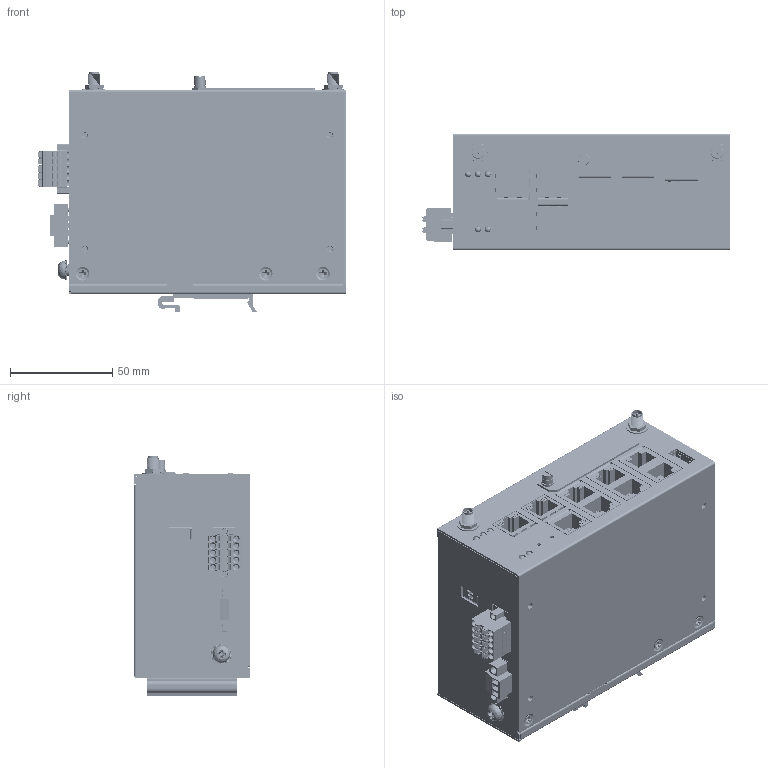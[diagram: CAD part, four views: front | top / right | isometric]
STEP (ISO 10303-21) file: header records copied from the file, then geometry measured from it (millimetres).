
FILE_DESCRIPTION((''),'2;1');
FILE_NAME('UC-5112_ASM','2018-03-19T',('VicWM_Chen'),(''),'PRO/ENGINEER BY PARAMETRIC TECHNOLOGY CORPORATION, 2017170','PRO/ENGINEER BY PARAMETRIC TECHNOLOGY CORPORATION, 2017170','');
FILE_SCHEMA(('CONFIG_CONTROL_DESIGN'));
Products named in the file (2): _UC-5112; UC-5112_ASM
Assembly tree (1 placements, depth 2):
  UC-5112_ASM
    _UC-5112
Bounding box: 151.2 x 57 x 117.6 mm (x, y, z)
Volume: 117097.2 mm3; surface area: 226211 mm2
Topology: 56 solids, 161 shells, 12109 faces, 33213 edges, 21946 vertices
Faces by surface type: plane 7972, cylinder 3311, cone 290, bspline 257, torus 177, sphere 74, extrusion 28
Entity records: 489451 total; most frequent: CARTESIAN_POINT 118730, ORIENTED_EDGE 65312, DIRECTION 60640, EDGE_CURVE 33193, VECTOR 24258, LINE 24230, VERTEX_POINT 21946, AXIS2_PLACEMENT_3D 18191
